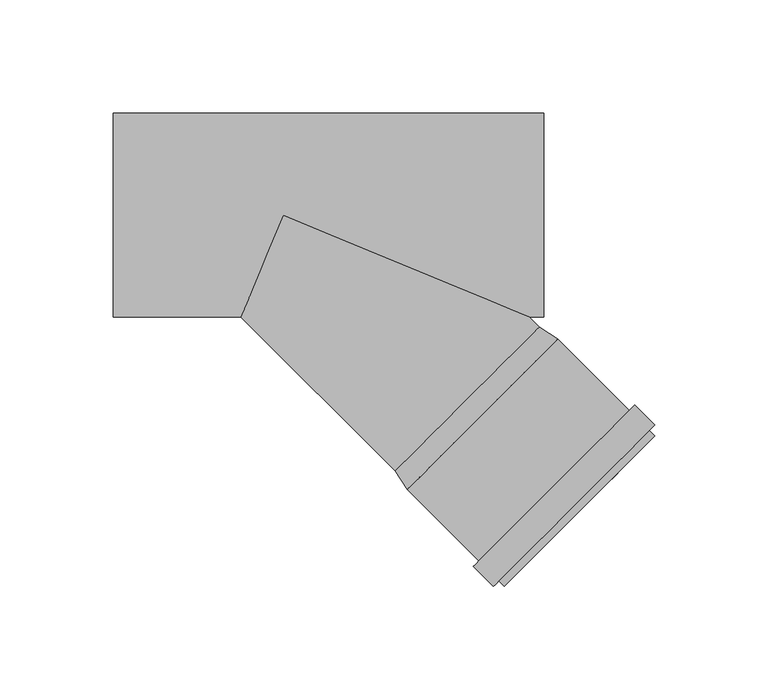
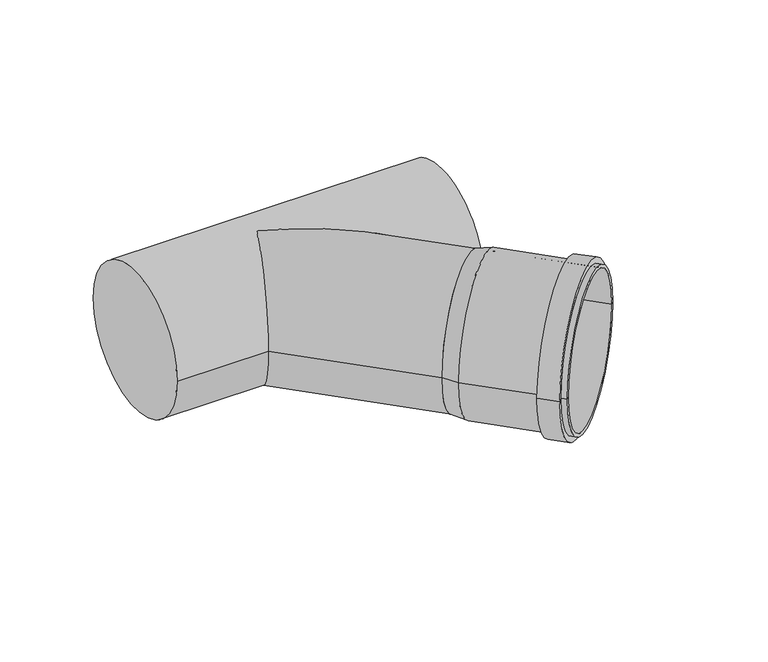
"""IFC4 building model written with IfcOpenShell, lengths in millimetres: pipe fitting geometry, pf_HTEA : pf_HTEA."""

from ifc_helpers import new_model, si_unit, frame, origin, place, context, project, spatial, polyline, circle_curve, ellipse_curve, source, transform, mapped, element, save
from ifc_brep_helpers import plane_surface, cylinder_surface, revolved_surface, advanced_brep


def pipe_fitting_c704f223(model_context):
    return source(origin(), model_context, "Body", "AdvancedBrep", [
        advanced_brep(
        [(49.4974747, -113.137085, 0.0), (113.137085, -49.4974747, 0.0), (121.268813, -54.8007755, 0.0), (54.8007755, -121.268813, 0.0), (81.3172798, -81.3172798, 0.0), (97.5807358, -164.0487732, 0.0), (164.0487732, -97.5807358, 0.0), (162.6345597, -98.9949494, 0.0), (98.9949494, -162.6345597, 0.0), (95.1765727, -161.6446102, 0.0), (161.6446102, -95.1765727, 0.0), (92.7724097, -164.0487732, 0.0), (164.0487732, -92.7724097, 0.0), (83.9335749, -155.2099385, 0.0), (155.2099385, -83.9335749, 0.0), (86.337738, -152.8057754, 0.0), (152.8057754, -86.337738, 0.0), (56.2149891, -119.8545994, 0.0), (119.8545994, -56.2149891, 0.0), (88.0347943, -88.0347943, 0.0)],
        [
            (0, 1, circle_curve(frame((81.3172798, -81.3172798, 0.0), z_axis=(0.7071067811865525, -0.7071067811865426, 0.0), x_axis=(0.7071067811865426, 0.7071067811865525, 0.0)), 45.0)),
            (1, 2),
            (2, 3, circle_curve(frame((88.0347943, -88.0347943, 0.0), z_axis=(-0.7071067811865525, 0.7071067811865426, 0.0), x_axis=(0.7071067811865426, 0.7071067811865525, 0.0)), 47.0)),
            (3, 0),
            (1, 0, circle_curve(frame((81.3172798, -81.3172798, 0.0), z_axis=(0.7071067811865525, -0.7071067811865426, 0.0), x_axis=(0.7071067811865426, 0.7071067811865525, 0.0)), 45.0)),
            (3, 2, circle_curve(frame((88.0347943, -88.0347943, 0.0), z_axis=(-0.7071067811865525, 0.7071067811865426, 0.0), x_axis=(0.7071067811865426, 0.7071067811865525, 0.0)), 47.0)),
            (4, 1),
            (0, 4),
            (5, 6, circle_curve(frame((130.8147545, -130.8147545, 0.0), z_axis=(0.7071067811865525, -0.7071067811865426, 0.0), x_axis=(0.7071067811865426, 0.7071067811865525, 0.0)), 47.0)),
            (6, 7),
            (7, 8, circle_curve(frame((130.8147545, -130.8147545, 0.0), z_axis=(-0.7071067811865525, 0.7071067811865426, 0.0), x_axis=(0.7071067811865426, 0.7071067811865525, 0.0)), 45.0)),
            (8, 5),
            (6, 5, circle_curve(frame((130.8147545, -130.8147545, 0.0), z_axis=(0.7071067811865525, -0.7071067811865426, 0.0), x_axis=(0.7071067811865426, 0.7071067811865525, 0.0)), 47.0)),
            (8, 7, circle_curve(frame((130.8147545, -130.8147545, 0.0), z_axis=(-0.7071067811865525, 0.7071067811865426, 0.0), x_axis=(0.7071067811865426, 0.7071067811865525, 0.0)), 45.0)),
            (9, 10, circle_curve(frame((128.4105915, -128.4105915, 0.0), z_axis=(0.7071067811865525, -0.7071067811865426, 0.0), x_axis=(0.7071067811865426, 0.7071067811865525, 0.0)), 47.0)),
            (10, 6),
            (5, 9),
            (10, 9, circle_curve(frame((128.4105915, -128.4105915, 0.0), z_axis=(0.7071067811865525, -0.7071067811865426, 0.0), x_axis=(0.7071067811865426, 0.7071067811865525, 0.0)), 47.0)),
            (11, 12, circle_curve(frame((128.4105915, -128.4105915, 0.0), z_axis=(0.7071067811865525, -0.7071067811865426, 0.0), x_axis=(0.7071067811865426, 0.7071067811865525, 0.0)), 50.4)),
            (12, 10),
            (9, 11),
            (12, 11, circle_curve(frame((128.4105915, -128.4105915, 0.0), z_axis=(0.7071067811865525, -0.7071067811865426, 0.0), x_axis=(0.7071067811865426, 0.7071067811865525, 0.0)), 50.4)),
            (13, 14, circle_curve(frame((119.5717567, -119.5717567, 0.0), z_axis=(0.7071067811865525, -0.7071067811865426, 0.0), x_axis=(0.7071067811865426, 0.7071067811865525, 0.0)), 50.4)),
            (14, 12),
            (11, 13),
            (14, 13, circle_curve(frame((119.5717567, -119.5717567, 0.0), z_axis=(0.7071067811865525, -0.7071067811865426, 0.0), x_axis=(0.7071067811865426, 0.7071067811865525, 0.0)), 50.4)),
            (15, 16, circle_curve(frame((119.5717567, -119.5717567, 0.0), z_axis=(0.7071067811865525, -0.7071067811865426, 0.0), x_axis=(0.7071067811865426, 0.7071067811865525, 0.0)), 47.0)),
            (16, 14),
            (13, 15),
            (16, 15, circle_curve(frame((119.5717567, -119.5717567, 0.0), z_axis=(0.7071067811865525, -0.7071067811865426, 0.0), x_axis=(0.7071067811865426, 0.7071067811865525, 0.0)), 47.0)),
            (2, 16),
            (15, 3),
            (17, 18, circle_curve(frame((88.0347943, -88.0347943, 0.0), z_axis=(0.7071067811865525, -0.7071067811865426, 0.0), x_axis=(0.7071067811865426, 0.7071067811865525, 0.0)), 45.0)),
            (18, 19),
            (19, 17),
            (18, 17, circle_curve(frame((88.0347943, -88.0347943, 0.0), z_axis=(0.7071067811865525, -0.7071067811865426, 0.0), x_axis=(0.7071067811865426, 0.7071067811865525, 0.0)), 45.0)),
            (7, 18),
            (17, 8),
        ],
        [
            revolved_surface(polyline([(121.268813, -54.8007755, 0.0), (113.137085, -49.4974747, 0.0)]), (81.3172798, -81.3172798, 0.0), (-0.7071067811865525, 0.7071067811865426, 0.0)),
            plane_surface(frame((81.3172798, -81.3172798, 0.0), z_axis=(-0.7071067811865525, 0.7071067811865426, 0.0), x_axis=(0.7071067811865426, 0.7071067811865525, 0.0))),
            plane_surface(frame((130.8147545, -130.8147545, 0.0), z_axis=(0.7071067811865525, -0.7071067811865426, 0.0), x_axis=(0.7071067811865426, 0.7071067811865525, 0.0))),
            cylinder_surface(frame((81.3172798, -81.3172798, 0.0), z_axis=(-0.7071067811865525, 0.7071067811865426, 0.0), x_axis=(0.7071067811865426, 0.7071067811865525, 0.0)), 47.0),
            plane_surface(frame((128.4105915, -128.4105915, 0.0), z_axis=(0.7071067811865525, -0.7071067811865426, 0.0), x_axis=(0.7071067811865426, 0.7071067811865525, 0.0))),
            cylinder_surface(frame((81.3172798, -81.3172798, 0.0), z_axis=(-0.7071067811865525, 0.7071067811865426, 0.0), x_axis=(0.7071067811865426, 0.7071067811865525, 0.0)), 50.4),
            plane_surface(frame((119.5717567, -119.5717567, 0.0), z_axis=(-0.7071067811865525, 0.7071067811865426, 0.0), x_axis=(0.7071067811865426, 0.7071067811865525, 0.0))),
            plane_surface(frame((88.0347943, -88.0347943, 0.0), z_axis=(0.7071067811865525, -0.7071067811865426, 0.0), x_axis=(0.7071067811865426, 0.7071067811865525, 0.0))),
            revolved_surface(polyline([(119.85459940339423, -56.21498909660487, 0.0), (162.63455970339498, -98.99494939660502, 0.0)]), (81.3172798, -81.3172798, 0.0), (-0.7071067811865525, 0.7071067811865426, 0.0)),
        ],
        [
            (0, [[1, 2, 3, 4]]),
            (0, [[5, -4, 6, -2]]),
            (1, [[7, -1, 8]]),
            (1, [[-8, -5, -7]]),
            (2, [[9, 10, 11, 12]]),
            (2, [[13, -12, 14, -10]]),
            (3, [[15, 16, -9, 17]]),
            (3, [[18, -17, -13, -16]]),
            (4, [[19, 20, -15, 21]]),
            (4, [[22, -21, -18, -20]]),
            (5, [[23, 24, -19, 25]]),
            (5, [[26, -25, -22, -24]]),
            (6, [[27, 28, -23, 29]]),
            (6, [[30, -29, -26, -28]]),
            (3, [[-3, 31, -27, 32]]),
            (3, [[-6, -32, -30, -31]]),
            (7, [[33, 34, 35]]),
            (7, [[36, -35, -34]]),
            (8, [[-11, 37, -33, 38]]),
            (8, [[-14, -38, -36, -37]]),
        ],
    ),
        advanced_brep(
        [(49.4974747, -113.137085, 0.0), (113.137085, -49.4974747, 0.0), (-75.0, -45.0, 0.0), (-75.0, 45.0, 0.0), (115.0, -45.0, 0.0), (115.0, 45.0, 0.0), (-18.6396103, -45.0, 0.0), (0.0, 0.0, 45.0), (108.6396103, -45.0, 0.0), (0.0, 0.0, -45.0)],
        [
            (0, 1, circle_curve(frame((81.3172798, -81.3172798, 0.0), z_axis=(0.7071067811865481, -0.7071067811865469, 0.0), x_axis=(0.7071067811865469, 0.7071067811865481, 0.0)), 45.0)),
            (1, 0, circle_curve(frame((81.3172798, -81.3172798, 0.0), z_axis=(0.7071067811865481, -0.7071067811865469, 0.0), x_axis=(0.7071067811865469, 0.7071067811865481, 0.0)), 45.0)),
            (2, 3, circle_curve(frame((-75.0, 0.0, 0.0), z_axis=(-1.0, 0.0, 0.0), x_axis=(0.0, 1.0, 0.0)), 45.0)),
            (3, 2, circle_curve(frame((-75.0, 0.0, 0.0), z_axis=(-1.0, 0.0, 0.0), x_axis=(0.0, 1.0, 0.0)), 45.0)),
            (4, 5, circle_curve(frame((115.0, 0.0, 0.0), z_axis=(1.0, 0.0, 0.0), x_axis=(0.0, 1.0, 0.0)), 45.0)),
            (5, 4, circle_curve(frame((115.0, 0.0, 0.0), z_axis=(1.0, 0.0, 0.0), x_axis=(0.0, 1.0, 0.0)), 45.0)),
            (2, 6),
            (6, 7, ellipse_curve(frame((0.0, 0.0, 0.0), z_axis=(-0.923879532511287, 0.3826834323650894, 0.0), x_axis=(-0.3826834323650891, -0.9238795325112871, 0.0)), 48.707649, 45.0)),
            (7, 8, ellipse_curve(frame((0.0, 0.0, 0.0), z_axis=(0.3826834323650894, 0.923879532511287, 0.0), x_axis=(-0.923879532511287, 0.38268343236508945, 0.0)), 117.5906668, 45.0)),
            (8, 4),
            (5, 3),
            (8, 9, ellipse_curve(frame((0.0, 0.0, 0.0), z_axis=(0.3826834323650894, 0.923879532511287, 0.0), x_axis=(-0.923879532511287, 0.38268343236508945, 0.0)), 117.5906668, 45.0)),
            (9, 6, ellipse_curve(frame((0.0, 0.0, 0.0), z_axis=(-0.923879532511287, 0.3826834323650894, 0.0), x_axis=(-0.3826834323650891, -0.9238795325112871, 0.0)), 48.707649, 45.0)),
            (1, 8),
            (6, 0),
        ],
        [
            plane_surface(frame((81.3172798, -81.3172798, 0.0), z_axis=(0.7071067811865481, -0.7071067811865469, 0.0), x_axis=(0.0, 0.0, 1.0))),
            plane_surface(frame((-75.0, 0.0, 0.0), z_axis=(-1.0, 0.0, 0.0), x_axis=(0.0, 0.0, 1.0))),
            plane_surface(frame((115.0, 0.0, 0.0), z_axis=(1.0, 0.0, 0.0), x_axis=(0.0, 0.0, 1.0))),
            cylinder_surface(frame((-75.0, 0.0, 0.0), z_axis=(-1.0, 0.0, 0.0), x_axis=(0.0, 1.0, 0.0)), 45.0),
            cylinder_surface(frame((0.0, 0.0, 0.0), z_axis=(-0.7071067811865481, 0.7071067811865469, 0.0), x_axis=(0.7071067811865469, 0.7071067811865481, 0.0)), 45.0),
        ],
        [
            (0, [[1, 2]]),
            (1, [[3, 4]]),
            (2, [[5, 6]]),
            (3, [[-3, 7, 8, 9, 10, -6, 11]]),
            (3, [[-4, -11, -5, -10, 12, 13, -7]]),
            (4, [[-2, 14, -9, -8, 15]]),
            (4, [[-1, -15, -13, -12, -14]]),
        ],
    ),
    ])


if __name__ == "__main__":
    model = new_model("IFC4")
    model_context = context("Model", 3, world=origin())
    ifc_project = project(units=[si_unit("LENGTHUNIT", "METRE", prefix="MILLI")], contexts=[model_context])
    site = spatial("IfcSite", under=ifc_project)
    building = spatial("IfcBuilding", under=site)
    placement = place(None, origin())
    pipe_fitting_shape = pipe_fitting_c704f223(model_context)
    element("IfcPipeFitting", 1, ObjectType="pf_HTEA : pf_HTEA", at=placement, inside=building, context=model_context, shape_type="MappedRepresentation", body=[
        mapped(pipe_fitting_shape, transform((0.0, 0.0, 0.0), x_axis=(1.0, 0.0, 0.0), y_axis=(0.0, 1.0, 0.0), z_axis=(0.0, 0.0, 1.0))),
    ])
    save(model, "model.ifc")
